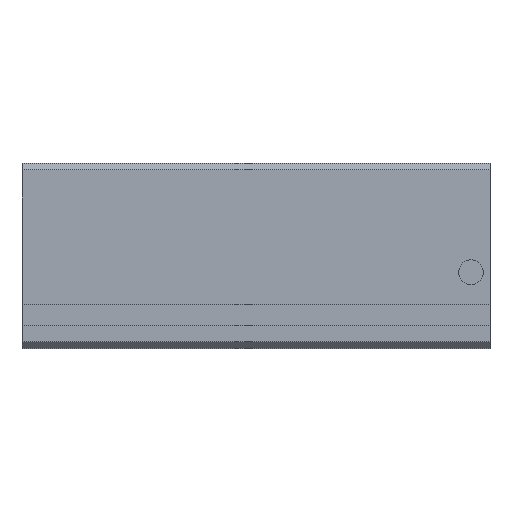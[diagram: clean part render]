
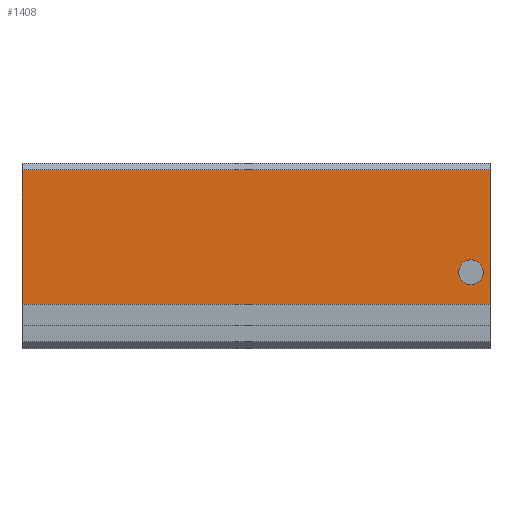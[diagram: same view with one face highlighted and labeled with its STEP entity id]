
A CAD part, top view. The second image highlights one B-rep face of the part: STEP entity #1408.
In plain terms, the highlighted planar face has unit normal (0, 0, 1).
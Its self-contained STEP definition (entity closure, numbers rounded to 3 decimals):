
#2 = LINE ( 'NONE', #1189, #891 ) ;
#61 = VECTOR ( 'NONE', #601, 1000. ) ;
#102 = ORIENTED_EDGE ( 'NONE', *, *, #1382, .F. ) ;
#174 = ORIENTED_EDGE ( 'NONE', *, *, #725, .F. ) ;
#206 = VERTEX_POINT ( 'NONE', #1091 ) ;
#229 = VERTEX_POINT ( 'NONE', #616 ) ;
#284 = EDGE_CURVE ( 'NONE', #1927, #1264, #1807, .T. ) ;
#346 = DIRECTION ( 'NONE',  ( 0., 0., -1. ) ) ;
#369 = CARTESIAN_POINT ( 'NONE',  ( 70., 0., 0. ) ) ;
#397 = ORIENTED_EDGE ( 'NONE', *, *, #840, .T. ) ;
#411 = VECTOR ( 'NONE', #1955, 1000. ) ;
#454 = LINE ( 'NONE', #524, #411 ) ;
#503 = CARTESIAN_POINT ( 'NONE',  ( 0., 26.7, 0. ) ) ;
#524 = CARTESIAN_POINT ( 'NONE',  ( 70., 0., 0. ) ) ;
#542 = ORIENTED_EDGE ( 'NONE', *, *, #284, .F. ) ;
#548 = EDGE_CURVE ( 'NONE', #206, #1389, #2, .T. ) ;
#593 = VERTEX_POINT ( 'NONE', #1863 ) ;
#601 = DIRECTION ( 'NONE',  ( 1., 0., 0. ) ) ;
#616 = CARTESIAN_POINT ( 'NONE',  ( 70., 6.6, 0. ) ) ;
#669 = DIRECTION ( 'NONE',  ( -1., 0., 0. ) ) ;
#712 = CARTESIAN_POINT ( 'NONE',  ( 67.15, 11.392, 0. ) ) ;
#721 = AXIS2_PLACEMENT_3D ( 'NONE', #712, #864, #1677 ) ;
#725 = EDGE_CURVE ( 'NONE', #1264, #1927, #2020, .T. ) ;
#735 = ORIENTED_EDGE ( 'NONE', *, *, #913, .T. ) ;
#815 = CARTESIAN_POINT ( 'NONE',  ( 67.15, 11.392, 0. ) ) ;
#840 = EDGE_CURVE ( 'NONE', #1389, #593, #1773, .T. ) ;
#864 = DIRECTION ( 'NONE',  ( 0., 0., 1. ) ) ;
#866 = ORIENTED_EDGE ( 'NONE', *, *, #548, .T. ) ;
#891 = VECTOR ( 'NONE', #1348, 1000. ) ;
#913 = EDGE_CURVE ( 'NONE', #593, #229, #1575, .T. ) ;
#1091 = CARTESIAN_POINT ( 'NONE',  ( 70., 26.7, 0. ) ) ;
#1125 = DIRECTION ( 'NONE',  ( 0., 0., 1. ) ) ;
#1189 = CARTESIAN_POINT ( 'NONE',  ( 70., 26.7, 0. ) ) ;
#1203 = VECTOR ( 'NONE', #2027, 1000. ) ;
#1246 = CARTESIAN_POINT ( 'NONE',  ( 0., 6.6, 0. ) ) ;
#1264 = VERTEX_POINT ( 'NONE', #1812 ) ;
#1348 = DIRECTION ( 'NONE',  ( -1., 0., 0. ) ) ;
#1382 = EDGE_CURVE ( 'NONE', #206, #229, #454, .T. ) ;
#1389 = VERTEX_POINT ( 'NONE', #503 ) ;
#1408 = ADVANCED_FACE ( 'NONE', ( #1434, #1489 ), #1969, .F. ) ;
#1434 = FACE_BOUND ( 'NONE', #1443, .T. ) ;
#1443 = EDGE_LOOP ( 'NONE', ( #174, #542 ) ) ;
#1467 = DIRECTION ( 'NONE',  ( -1., 0., 0. ) ) ;
#1477 = AXIS2_PLACEMENT_3D ( 'NONE', #369, #346, #669 ) ;
#1489 = FACE_OUTER_BOUND ( 'NONE', #1792, .T. ) ;
#1496 = CARTESIAN_POINT ( 'NONE',  ( 69., 11.392, 0. ) ) ;
#1538 = CARTESIAN_POINT ( 'NONE',  ( 0., 0., 0. ) ) ;
#1575 = LINE ( 'NONE', #1246, #61 ) ;
#1677 = DIRECTION ( 'NONE',  ( -1., 0., 0. ) ) ;
#1773 = LINE ( 'NONE', #1538, #1203 ) ;
#1774 = AXIS2_PLACEMENT_3D ( 'NONE', #815, #1125, #1467 ) ;
#1792 = EDGE_LOOP ( 'NONE', ( #102, #866, #397, #735 ) ) ;
#1807 = CIRCLE ( 'NONE', #1774, 1.85 ) ;
#1812 = CARTESIAN_POINT ( 'NONE',  ( 65.3, 11.392, 0. ) ) ;
#1863 = CARTESIAN_POINT ( 'NONE',  ( 0., 6.6, 0. ) ) ;
#1927 = VERTEX_POINT ( 'NONE', #1496 ) ;
#1955 = DIRECTION ( 'NONE',  ( 0., -1., 0. ) ) ;
#1969 = PLANE ( 'NONE',  #1477 ) ;
#2020 = CIRCLE ( 'NONE', #721, 1.85 ) ;
#2027 = DIRECTION ( 'NONE',  ( 0., -1., 0. ) ) ;
